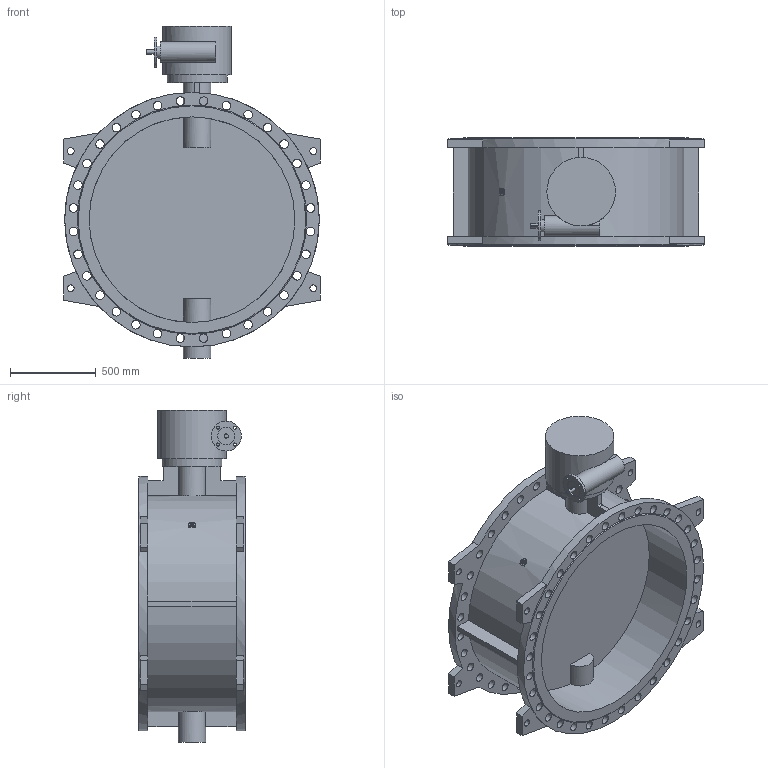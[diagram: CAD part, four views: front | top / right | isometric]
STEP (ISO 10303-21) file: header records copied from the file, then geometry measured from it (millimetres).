
FILE_DESCRIPTION(('STEP AP203'), '1');
FILE_NAME('Çàòâîð 023F.Z DN1200 PN16_ð-ð_ôë', '', ('UNSPECIFIED'), ('UNSPECIFIED'), 'ASCON STEP Converter 1.6', 'ASCON Math Kernel', '');
FILE_SCHEMA(('CONFIG_CONTROL_DESIGN'));
Length unit declared in the file: millimetre
Bounding box: 1496 x 630 x 1937 mm (x, y, z)
Volume: 279977053.8 mm3; surface area: 11017038.1 mm2
Topology: 1 solids, 1 shells, 231 faces, 596 edges, 394 vertices
Faces by surface type: cylinder 122, plane 107, cone 2
Full cylindrical faces by diameter (mm): 18 x12, 23 x8, 24 x1, 40 x8, 50 x64, 70 x1, 100 x1, 120 x1, 160 x1, 175 x1, 350 x1, 400 x1, 1200 x2, 1485 x2
Entity records: 9903 total; most frequent: CARTESIAN_POINT 2300, DIRECTION 1197, ORIENTED_EDGE 972, EDGE_LOOP 517, AXIS2_PLACEMENT_3D 499, EDGE_CURVE 486, VERTEX_POINT 393, FACE_BOUND 314
